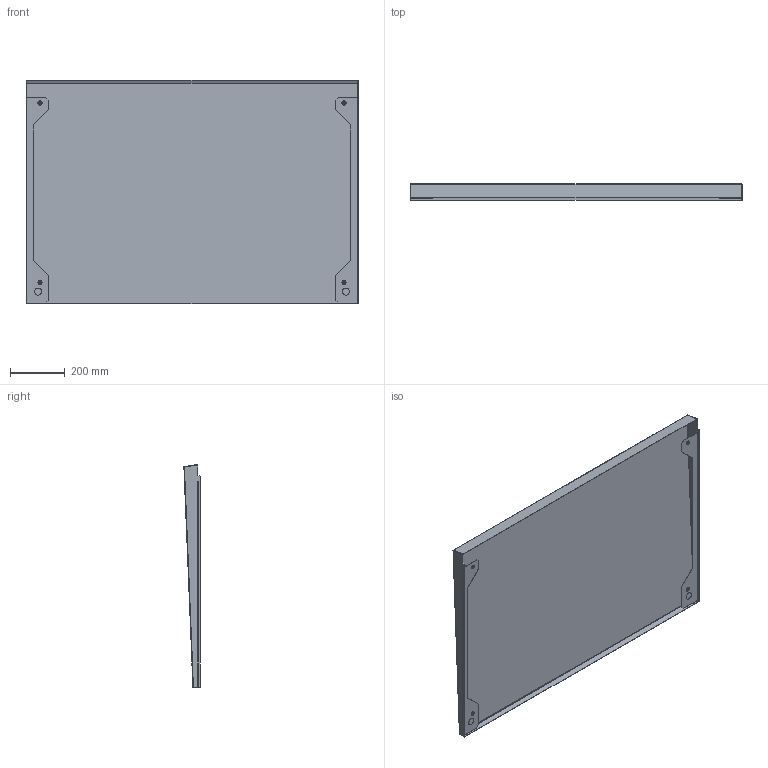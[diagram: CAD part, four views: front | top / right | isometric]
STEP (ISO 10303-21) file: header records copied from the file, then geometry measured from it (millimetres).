
FILE_DESCRIPTION (( 'STEP AP203' ), '1' );
FILE_NAME ('R 120.80 Cﾁ ﾊ鰀靍裲 鈞隆.STEP', '2012-11-21T04:42:22', ( 'system' ), ( '' ), 'SwSTEP 2.0', 'SolidWorks 2012', '' );
FILE_SCHEMA (( 'CONFIG_CONTROL_DESIGN' ));
Length unit declared in the file: millimetre
Products named in the file (1): R 120.80 Cﾁ ﾊ鰀靍裲 鈞隆
Bounding box: 1210 x 59.13 x 813.68 mm (x, y, z)
Volume: 1666849.3 mm3; surface area: 2388420.9 mm2
Topology: 5 solids, 5 shells, 152 faces, 354 edges, 224 vertices
Faces by surface type: cylinder 60, plane 60, torus 16, cone 8, sphere 8
Entity records: 4419 total; most frequent: DIRECTION 824, CARTESIAN_POINT 731, ORIENTED_EDGE 692, EDGE_CURVE 346, AXIS2_PLACEMENT_3D 329, VERTEX_POINT 220, EDGE_LOOP 188, CIRCLE 176
